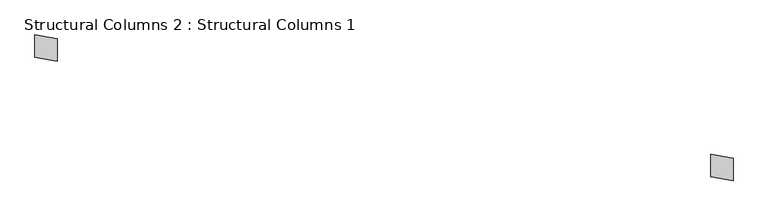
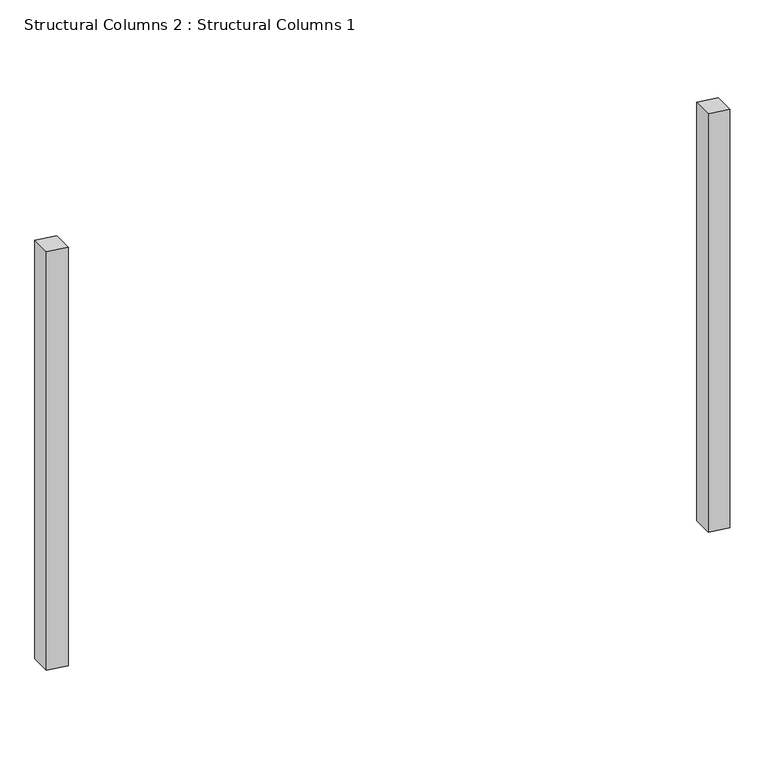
"""IFC4 building model written with IfcOpenShell, lengths in millimetres: column geometry, Structural Columns 2 : Structural Columns 1."""

from ifc_helpers import new_model, si_unit, origin, place, context, project, spatial, faceted_brep, source, transform, mapped, element, save


def structural_columns_2_structural_columns_1_73b75508(model_context):
    return source(origin(), model_context, "Body", "Brep", [
        faceted_brep([(-3649.3384937, -12564.5822386, 5000.0), (-3649.3384937, -12310.7255856, 5000.0), (-3899.3384937, -12266.6438404, 5000.0), (-3899.3384937, -12520.5004934, 5000.0), (-3649.3384937, -12564.5822386, -600.0), (-3899.3384937, -12520.5004934, -600.0), (-3899.3384937, -12266.6438404, -600.0), (-3649.3384937, -12310.7255856, -600.0), (-3649.3384937, -12564.5822386, -300.0), (-3649.3384937, -12564.5822386, -100.0), (-3649.3384937, -12564.5822386, 4800.0), (-3899.3384937, -12266.6438404, 4800.0), (-3899.3384937, -12266.6438404, -100.0), (-3899.3384937, -12266.6438404, -300.0), (-3649.3384937, -12310.7255856, 4800.0), (-3649.3384937, -12310.7255856, -100.0), (-3649.3384937, -12310.7255856, -300.0)], [[[0, 1, 2, 3]], [[4, 5, 6, 7]], [[0, 3, 5, 4, 8, 9, 10]], [[3, 2, 11, 12, 13, 6, 5]], [[2, 1, 14, 15, 16, 7, 6, 13, 12, 11]], [[1, 0, 10, 9, 8, 4, 7, 16, 15, 14]]]),
        faceted_brep([(3950.6615063, -13904.6672919, 5000.0), (3950.6615063, -13650.810639, 5000.0), (3700.6615063, -13606.7288938, 5000.0), (3700.6615063, -13860.5855468, 5000.0), (3950.6615063, -13904.6672919, -600.0), (3700.6615063, -13860.5855468, -600.0), (3700.6615063, -13606.7288938, -600.0), (3950.6615063, -13650.810639, -600.0), (3700.6615063, -13860.5855468, 4800.0), (3700.6615063, -13860.5855468, -100.0), (3700.6615063, -13860.5855468, -300.0), (3950.6615063, -13904.6672919, -300.0), (3950.6615063, -13904.6672919, -100.0), (3950.6615063, -13904.6672919, 4800.0), (3700.6615063, -13606.7288938, 4800.0), (3700.6615063, -13606.7288938, -100.0), (3700.6615063, -13606.7288938, -300.0), (3950.6615063, -13650.810639, 4800.0), (3950.6615063, -13650.810639, -100.0), (3950.6615063, -13650.810639, -300.0)], [[[0, 1, 2, 3]], [[4, 5, 6, 7]], [[0, 3, 8, 9, 10, 5, 4, 11, 12, 13]], [[3, 2, 14, 15, 16, 6, 5, 10, 9, 8]], [[2, 1, 17, 18, 19, 7, 6, 16, 15, 14]], [[1, 0, 13, 12, 11, 4, 7, 19, 18, 17]]]),
    ])


if __name__ == "__main__":
    model = new_model("IFC4")
    model_context = context("Model", 3, world=origin())
    ifc_project = project(units=[si_unit("LENGTHUNIT", "METRE", prefix="MILLI")], contexts=[model_context])
    site = spatial("IfcSite", under=ifc_project)
    building = spatial("IfcBuilding", under=site)
    placement = place(None, origin())
    structural_columns_2_structural_columns_1_shape = structural_columns_2_structural_columns_1_73b75508(model_context)
    element("IfcColumn", 1, ObjectType="Structural Columns 2 : Structural Columns 1", at=placement, inside=building, context=model_context, shape_type="MappedRepresentation", body=[
        mapped(structural_columns_2_structural_columns_1_shape, transform((0.0, 0.0, 0.0), x_axis=(1.0, 0.0, 0.0), y_axis=(0.0, 1.0, 0.0), z_axis=(0.0, 0.0, 1.0))),
    ])
    save(model, "model.ifc")
